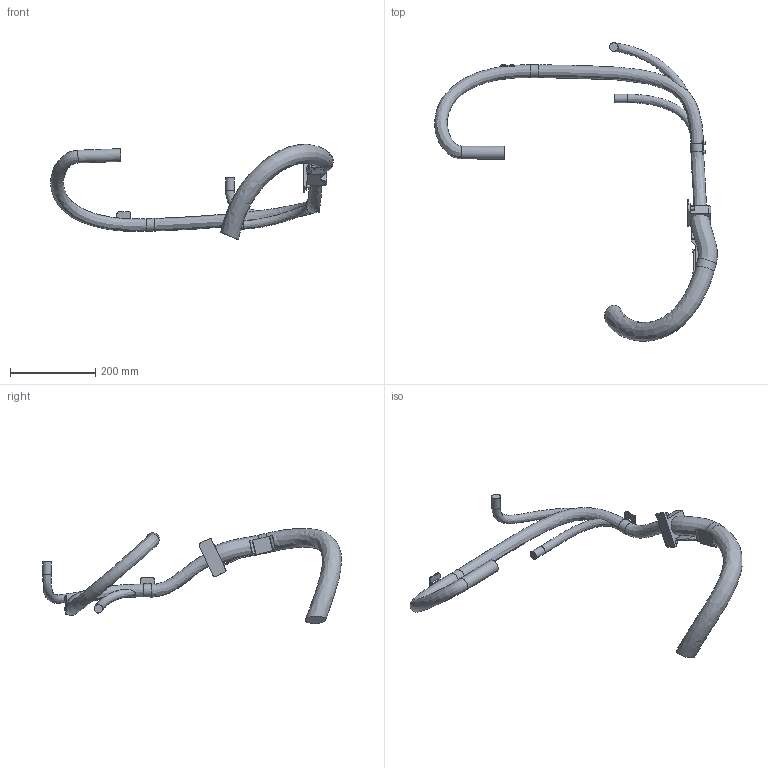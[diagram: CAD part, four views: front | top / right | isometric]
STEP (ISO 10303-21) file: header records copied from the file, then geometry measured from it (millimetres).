
FILE_DESCRIPTION (( 'STEP AP203' ), '1' );
FILE_NAME ('IRB6730S-ALL-OC_00_LINK03m_CABLE.step', '2025-12-19T13:14:56', ( '' ), ( '' ), 'SwSTEP 2.0', 'SolidWorks 2024', '' );
FILE_SCHEMA (( 'CONFIG_CONTROL_DESIGN' ));
Length unit declared in the file: millimetre
Products named in the file (1): IRB6730S-ALL-OC_00_LINK03m_CABLE
Bounding box: 663.84 x 701.01 x 224.03 mm (x, y, z)
Volume: 1896710.6 mm3; surface area: 240138 mm2
Topology: 1 solids, 1 shells, 167 faces, 451 edges, 290 vertices
Faces by surface type: plane 97, cylinder 61, bspline 9
Full cylindrical faces by diameter (mm): 8 x6, 20 x2, 30 x2
Entity records: 8024 total; most frequent: CARTESIAN_POINT 3981, ORIENTED_EDGE 830, DIRECTION 797, EDGE_CURVE 415, AXIS2_PLACEMENT_3D 277, VERTEX_POINT 274, LINE 243, VECTOR 243
